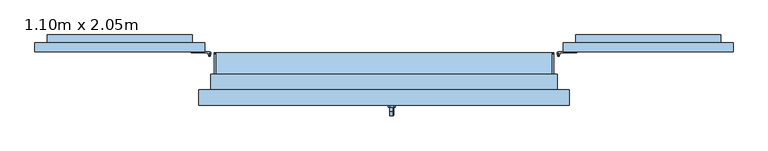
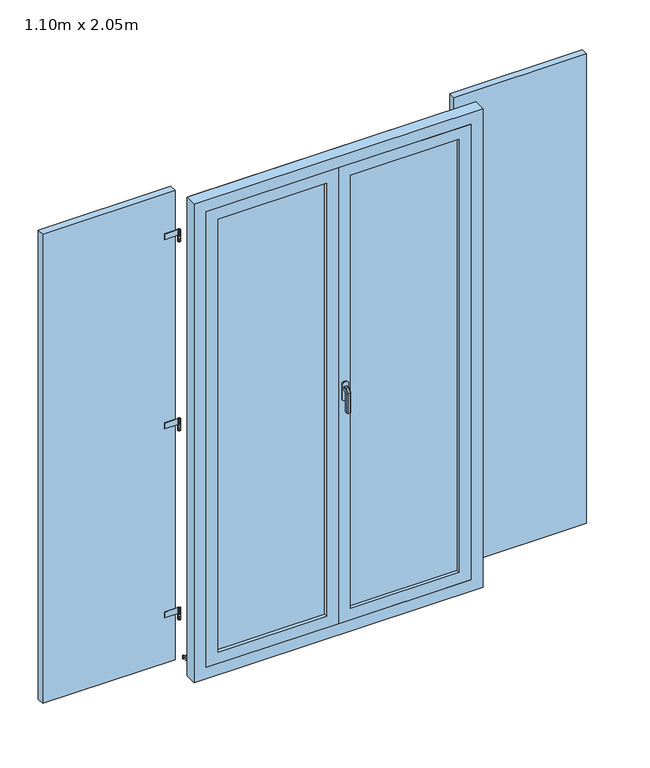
"""IFC4 building model written with IfcOpenShell, lengths in millimetres: window geometry, PF 2 Vantaux droits - Volets et petits bois : 1.10m x 2.05m."""

from ifc_helpers import new_model, si_unit, point, frame, frame_2d, origin, place, context, project, spatial, polyline, circle_curve, trimmed, segment, composite_curve, outline, extrude, faceted_brep, source, transform, mapped, element, save
from ifc_brep_helpers import plane_surface, cylinder_surface, advanced_brep


def window_1_10m_x_2_05m_0457a856(model_context):
    return source(origin(), model_context, "Body", "SolidModel", [
        extrude(outline(polyline([(-1130.0, 93.0), (-1130.0, 123.0), (-580.0, 123.0), (-580.0, 93.0), (-1130.0, 93.0)])), frame((0.0, 0.0, 25.0), z_axis=(0.0, 0.0, 1.0), x_axis=(1.0, 0.0, 0.0)), (0.0, 0.0, 1.0), 2060.0),
        advanced_brep(
        [(-560.0, 88.0, 225.0), (-570.0, 88.0, 225.0), (-560.0, 88.0, 200.0), (-570.0, 88.0, 200.0), (-567.0, 83.4174243, 205.0), (-567.0, 83.4174243, 215.0), (-563.0, 83.4174243, 215.0), (-563.0, 83.4174243, 205.0), (-563.0, 80.0, 215.0), (-567.0, 80.0, 215.0), (-567.0, 80.0, 205.0), (-563.0, 80.0, 205.0)],
        [
            (0, 1, circle_curve(frame((-565.0, 88.0, 225.0), z_axis=(0.0, 0.0, 1.0), x_axis=(-1.0, 0.0, 0.0)), 5.0)),
            (1, 0, circle_curve(frame((-565.0, 88.0, 225.0), z_axis=(0.0, 0.0, 1.0), x_axis=(-1.0, 0.0, 0.0)), 5.0)),
            (2, 3, circle_curve(frame((-565.0, 88.0, 200.0), z_axis=(0.0, 0.0, -1.0), x_axis=(-1.0, 0.0, 0.0)), 5.0)),
            (3, 2, circle_curve(frame((-565.0, 88.0, 200.0), z_axis=(0.0, 0.0, -1.0), x_axis=(-1.0, 0.0, 0.0)), 5.0)),
            (1, 3),
            (2, 0),
            (4, 5),
            (5, 6, circle_curve(frame((-565.0, 88.0, 215.0), z_axis=(0.0, 0.0, 1.0), x_axis=(-1.0, 0.0, 0.0)), 5.0)),
            (6, 7),
            (7, 4, circle_curve(frame((-565.0, 88.0, 205.0), z_axis=(0.0, 0.0, -1.0), x_axis=(-1.0, 0.0, 0.0)), 5.0)),
            (8, 6),
            (5, 9),
            (9, 8),
            (10, 4),
            (7, 11),
            (11, 10),
            (10, 9),
            (8, 11),
        ],
        [
            plane_surface(frame((-570.0, 88.0, 225.0), z_axis=(0.0, 0.0, 1.0), x_axis=(0.0, 1.0, 0.0))),
            plane_surface(frame((-570.0, 88.0, 200.0), z_axis=(0.0, 0.0, -1.0), x_axis=(0.0, -1.0, 0.0))),
            cylinder_surface(frame((-565.0, 88.0, 200.0), z_axis=(0.0, 0.0, 1.0), x_axis=(-1.0, 0.0, 0.0)), 5.0),
            plane_surface(frame((-567.0, 80.0, 215.0), z_axis=(0.0, 0.0, 1.0), x_axis=(0.0, 1.0, 0.0))),
            plane_surface(frame((-567.0, 80.0, 205.0), z_axis=(0.0, 0.0, -1.0), x_axis=(0.0, -1.0, 0.0))),
            plane_surface(frame((-567.0, 80.0, 215.0), z_axis=(-1.0, 0.0, 0.0), x_axis=(0.0, 0.0, -1.0))),
            plane_surface(frame((-563.0, 85.0, 215.0), z_axis=(1.0, 0.0, 0.0), x_axis=(0.0, 0.0, -1.0))),
            plane_surface(frame((-563.0, 80.0, 215.0), z_axis=(0.0, -1.0, 0.0), x_axis=(0.0, 0.0, -1.0))),
        ],
        [
            (0, [[1, 2]]),
            (1, [[3, 4]]),
            (2, [[5, -3, 6, -2], [7, 8, 9, 10]]),
            (2, [[-6, -4, -5, -1]]),
            (3, [[11, -8, 12, 13]]),
            (4, [[14, -10, 15, 16]]),
            (5, [[-12, -7, -14, 17]]),
            (6, [[-15, -9, -11, 18]]),
            (7, [[-17, -16, -18, -13]]),
        ],
    ),
        extrude(outline(composite_curve([segment(trimmed(circle_curve(frame_2d((-565.0, 88.0)), 5.0), [point((-565.0, 93.0))], [point((-570.0, 88.0))], False, "CARTESIAN"), True, "CONTINUOUS"), segment(polyline([(-570.0, 88.0), (-567.5, 88.0)]), True, "CONTINUOUS"), segment(trimmed(circle_curve(frame_2d((-565.0, 88.0)), 2.5), [point((-567.5, 88.0))], [point((-565.0, 90.5))], True, "CARTESIAN"), True, "CONTINUOUS"), segment(polyline([(-565.0, 90.5), (-624.3092325, 90.5), (-624.3092325, 93.0), (-565.0, 93.0)]), True, "CONTINUOUS")], self_intersect=False)), frame((0.0, 0.0, 225.0), z_axis=(0.0, 0.0, 1.0), x_axis=(1.0, 0.0, 0.0)), (0.0, 0.0, 1.0), 25.0),
        extrude(outline(composite_curve([segment(trimmed(circle_curve(frame_2d((-565.0, 88.0)), 2.5), [point((-562.5, 88.0))], [point((-567.5, 88.0))], False, "CARTESIAN"), True, "CONTINUOUS"), segment(trimmed(circle_curve(frame_2d((-565.0, 88.0)), 2.5), [point((-567.5, 88.0))], [point((-562.5, 88.0))], False, "CARTESIAN"), True, "CONTINUOUS")], self_intersect=False)), frame((0.0, 0.0, 225.0), z_axis=(0.0, 0.0, 1.0), x_axis=(1.0, 0.0, 0.0)), (0.0, 0.0, 1.0), 25.0),
        advanced_brep(
        [(-560.0, 88.0, 1885.0), (-570.0, 88.0, 1885.0), (-560.0, 88.0, 1860.0), (-570.0, 88.0, 1860.0), (-563.0, 83.4174243, 1875.0), (-563.0, 83.4174243, 1865.0), (-567.0, 83.4174243, 1865.0), (-567.0, 83.4174243, 1875.0), (-563.0, 80.0, 1875.0), (-567.0, 80.0, 1875.0), (-563.0, 80.0, 1865.0), (-567.0, 80.0, 1865.0)],
        [
            (0, 1, circle_curve(frame((-565.0, 88.0, 1885.0), z_axis=(0.0, 0.0, 1.0), x_axis=(-1.0, 0.0, 0.0)), 5.0)),
            (1, 0, circle_curve(frame((-565.0, 88.0, 1885.0), z_axis=(0.0, 0.0, 1.0), x_axis=(-1.0, 0.0, 0.0)), 5.0)),
            (2, 3, circle_curve(frame((-565.0, 88.0, 1860.0), z_axis=(0.0, 0.0, -1.0), x_axis=(-1.0, 0.0, 0.0)), 5.0)),
            (3, 2, circle_curve(frame((-565.0, 88.0, 1860.0), z_axis=(0.0, 0.0, -1.0), x_axis=(-1.0, 0.0, 0.0)), 5.0)),
            (1, 3),
            (2, 0),
            (4, 5),
            (5, 6, circle_curve(frame((-565.0, 88.0, 1865.0), z_axis=(0.0, 0.0, -1.0), x_axis=(-1.0, 0.0, 0.0)), 5.0)),
            (6, 7),
            (7, 4, circle_curve(frame((-565.0, 88.0, 1875.0), z_axis=(0.0, 0.0, 1.0), x_axis=(-1.0, 0.0, 0.0)), 5.0)),
            (8, 4),
            (7, 9),
            (9, 8),
            (10, 11),
            (11, 6),
            (5, 10),
            (9, 11),
            (10, 8),
        ],
        [
            plane_surface(frame((-570.0, 88.0, 1885.0), z_axis=(0.0, 0.0, 1.0), x_axis=(0.0, 1.0, 0.0))),
            plane_surface(frame((-570.0, 88.0, 1860.0), z_axis=(0.0, 0.0, -1.0), x_axis=(0.0, -1.0, 0.0))),
            cylinder_surface(frame((-565.0, 88.0, 1860.0), z_axis=(0.0, 0.0, 1.0), x_axis=(-1.0, 0.0, 0.0)), 5.0),
            plane_surface(frame((-563.0, 80.0, 1875.0), z_axis=(0.0, 0.0, 1.0), x_axis=(-1.0, 0.0, 0.0))),
            plane_surface(frame((-563.0, 80.0, 1865.0), z_axis=(0.0, 0.0, -1.0), x_axis=(1.0, 0.0, 0.0))),
            plane_surface(frame((-563.0, 80.0, 1875.0), z_axis=(0.0, -1.0, 0.0), x_axis=(0.0, 0.0, -1.0))),
            plane_surface(frame((-567.0, 80.0, 1875.0), z_axis=(-1.0, 0.0, 0.0), x_axis=(0.0, 0.0, -1.0))),
            plane_surface(frame((-563.0, 83.4174243, 1875.0), z_axis=(1.0, 0.0, 0.0), x_axis=(0.0, 0.0, -1.0))),
        ],
        [
            (0, [[1, 2]]),
            (1, [[3, 4]]),
            (2, [[5, -3, 6, -2], [7, 8, 9, 10]]),
            (2, [[-6, -4, -5, -1]]),
            (3, [[11, -10, 12, 13]]),
            (4, [[14, 15, -8, 16]]),
            (5, [[17, -14, 18, -13]]),
            (6, [[-9, -15, -17, -12]]),
            (7, [[-18, -16, -7, -11]]),
        ],
    ),
        extrude(outline(polyline([(-563.0, 80.0), (-567.0, 80.0), (-567.0, 83.4174243), (-563.0, 83.4174243), (-563.0, 80.0)])), frame((0.0, 0.0, 1035.0), z_axis=(0.0, 0.0, 1.0), x_axis=(1.0, 0.0, 0.0)), (0.0, 0.0, 1.0), 10.0),
        extrude(outline(composite_curve([segment(trimmed(circle_curve(frame_2d((-565.0, 88.0)), 5.0), [point((-565.0, 93.0))], [point((-570.0, 88.0))], False, "CARTESIAN"), True, "CONTINUOUS"), segment(polyline([(-570.0, 88.0), (-567.5, 88.0)]), True, "CONTINUOUS"), segment(trimmed(circle_curve(frame_2d((-565.0, 88.0)), 2.5), [point((-567.5, 88.0))], [point((-562.5, 88.0))], True, "CARTESIAN"), True, "CONTINUOUS"), segment(trimmed(circle_curve(frame_2d((-565.0, 88.0)), 2.5), [point((-562.5, 88.0))], [point((-565.0, 90.5))], True, "CARTESIAN"), True, "CONTINUOUS"), segment(polyline([(-565.0, 90.5), (-624.3092325, 90.5), (-624.3092325, 93.0), (-565.0, 93.0)]), True, "CONTINUOUS")], self_intersect=False)), frame((0.0, 0.0, 1055.0), z_axis=(0.0, 0.0, 1.0), x_axis=(1.0, 0.0, 0.0)), (0.0, 0.0, 1.0), 25.0),
        extrude(outline(composite_curve([segment(trimmed(circle_curve(frame_2d((-565.0, 88.0)), 2.5), [point((-562.5, 88.0))], [point((-567.5, 88.0))], False, "CARTESIAN"), True, "CONTINUOUS"), segment(trimmed(circle_curve(frame_2d((-565.0, 88.0)), 2.5), [point((-567.5, 88.0))], [point((-562.5, 88.0))], False, "CARTESIAN"), True, "CONTINUOUS")], self_intersect=False)), frame((0.0, 0.0, 1055.0), z_axis=(0.0, 0.0, 1.0), x_axis=(1.0, 0.0, 0.0)), (0.0, 0.0, 1.0), 25.0),
        extrude(outline(composite_curve([segment(trimmed(circle_curve(frame_2d((-565.0, 88.0)), 5.0), [point((-560.0, 88.0))], [point((-570.0, 88.0))], False, "CARTESIAN"), True, "CONTINUOUS"), segment(trimmed(circle_curve(frame_2d((-565.0, 88.0)), 5.0), [point((-570.0, 88.0))], [point((-560.0, 88.0))], False, "CARTESIAN"), True, "CONTINUOUS")], self_intersect=False)), frame((0.0, 0.0, 1030.0), z_axis=(0.0, 0.0, 1.0), x_axis=(1.0, 0.0, 0.0)), (0.0, 0.0, 1.0), 25.0),
        extrude(outline(composite_curve([segment(trimmed(circle_curve(frame_2d((-565.0, 88.0)), 5.0), [point((-565.0, 93.0))], [point((-570.0, 88.0))], False, "CARTESIAN"), True, "CONTINUOUS"), segment(polyline([(-570.0, 88.0), (-567.5, 88.0)]), True, "CONTINUOUS"), segment(trimmed(circle_curve(frame_2d((-565.0, 88.0)), 2.5), [point((-567.5, 88.0))], [point((-565.0, 90.5))], True, "CARTESIAN"), True, "CONTINUOUS"), segment(polyline([(-565.0, 90.5), (-624.3092325, 90.5), (-624.3092325, 93.0), (-565.0, 93.0)]), True, "CONTINUOUS")], self_intersect=False)), frame((0.0, 0.0, 1885.0), z_axis=(0.0, 0.0, 1.0), x_axis=(1.0, 0.0, 0.0)), (0.0, 0.0, 1.0), 25.0),
        extrude(outline(composite_curve([segment(trimmed(circle_curve(frame_2d((-565.0, 88.0)), 2.5), [point((-562.5, 88.0))], [point((-567.5, 88.0))], False, "CARTESIAN"), True, "CONTINUOUS"), segment(trimmed(circle_curve(frame_2d((-565.0, 88.0)), 2.5), [point((-567.5, 88.0))], [point((-562.5, 88.0))], False, "CARTESIAN"), True, "CONTINUOUS")], self_intersect=False)), frame((0.0, 0.0, 1885.0), z_axis=(0.0, 0.0, 1.0), x_axis=(1.0, 0.0, 0.0)), (0.0, 0.0, 1.0), 25.0),
        extrude(outline(polyline([(1845.0, -1000.3028914), (1845.0, -1090.0), (1095.0, -709.6971086), (1095.0, -620.0), (1845.0, -1000.3028914)])), frame((0.0, 123.0, 0.0), z_axis=(0.0, 1.0, 0.0), x_axis=(0.0, 0.0, 1.0)), (0.0, 0.0, 1.0), 25.0),
        extrude(outline(polyline([(265.0, -709.6978338), (265.0, -620.0007252), (1015.0, -1000.3036166), (1015.0, -1090.0007252), (265.0, -709.6978338)])), frame((0.0, 123.0, 0.0), z_axis=(0.0, 1.0, 0.0), x_axis=(0.0, 0.0, 1.0)), (0.0, 0.0, 1.0), 25.0),
        extrude(outline(polyline([(-620.0, 148.0), (-620.0, 123.0), (-1090.0, 123.0), (-1090.0, 148.0), (-620.0, 148.0)])), frame((0.0, 0.0, 1845.0), z_axis=(0.0, 0.0, 1.0), x_axis=(1.0, 0.0, 0.0)), (0.0, 0.0, 1.0), 80.0),
        extrude(outline(polyline([(-620.0, 148.0), (-620.0, 123.0), (-1090.0, 123.0), (-1090.0, 148.0), (-620.0, 148.0)])), frame((0.0, 0.0, 185.0), z_axis=(0.0, 0.0, 1.0), x_axis=(1.0, 0.0, 0.0)), (0.0, 0.0, 1.0), 80.0),
        extrude(outline(polyline([(-620.0, 148.0), (-620.0, 123.0), (-1090.0, 123.0), (-1090.0, 148.0), (-620.0, 148.0)])), frame((0.0, 0.0, 1015.0), z_axis=(0.0, 0.0, 1.0), x_axis=(1.0, 0.0, 0.0)), (0.0, 0.0, 1.0), 80.0),
        extrude(outline(polyline([(1130.0, 93.0), (580.0, 93.0), (580.0, 123.0), (1130.0, 123.0), (1130.0, 93.0)])), frame((0.0, 0.0, 25.0), z_axis=(0.0, 0.0, 1.0), x_axis=(1.0, 0.0, 0.0)), (0.0, 0.0, 1.0), 2060.0),
        advanced_brep(
        [(560.0, 88.0, 225.0), (570.0, 88.0, 225.0), (560.0, 88.0, 200.0), (570.0, 88.0, 200.0), (567.0, 83.4174243, 205.0), (563.0, 83.4174243, 205.0), (563.0, 83.4174243, 215.0), (567.0, 83.4174243, 215.0), (563.0, 80.0, 215.0), (567.0, 80.0, 215.0), (567.0, 80.0, 205.0), (563.0, 80.0, 205.0)],
        [
            (0, 1, circle_curve(frame((565.0, 88.0, 225.0), z_axis=(0.0, 0.0, 1.0), x_axis=(1.0, 0.0, 0.0)), 5.0)),
            (1, 0, circle_curve(frame((565.0, 88.0, 225.0), z_axis=(0.0, 0.0, 1.0), x_axis=(1.0, 0.0, 0.0)), 5.0)),
            (2, 3, circle_curve(frame((565.0, 88.0, 200.0), z_axis=(0.0, 0.0, -1.0), x_axis=(1.0, 0.0, 0.0)), 5.0)),
            (3, 2, circle_curve(frame((565.0, 88.0, 200.0), z_axis=(0.0, 0.0, -1.0), x_axis=(1.0, 0.0, 0.0)), 5.0)),
            (0, 2),
            (3, 1),
            (4, 5, circle_curve(frame((565.0, 88.0, 205.0), z_axis=(0.0, 0.0, -1.0), x_axis=(1.0, 0.0, 0.0)), 5.0)),
            (5, 6),
            (6, 7, circle_curve(frame((565.0, 88.0, 215.0), z_axis=(0.0, 0.0, 1.0), x_axis=(1.0, 0.0, 0.0)), 5.0)),
            (7, 4),
            (8, 9),
            (9, 7),
            (6, 8),
            (10, 11),
            (11, 5),
            (4, 10),
            (9, 10),
            (11, 8),
        ],
        [
            plane_surface(frame((570.0, 88.0, 225.0), z_axis=(0.0, 0.0, 1.0), x_axis=(0.0, 1.0, 0.0))),
            plane_surface(frame((570.0, 88.0, 200.0), z_axis=(0.0, 0.0, -1.0), x_axis=(0.0, -1.0, 0.0))),
            cylinder_surface(frame((565.0, 88.0, 200.0), z_axis=(0.0, 0.0, 1.0), x_axis=(1.0, 0.0, 0.0)), 5.0),
            plane_surface(frame((567.0, 80.0, 215.0), z_axis=(0.0, 0.0, 1.0), x_axis=(0.0, 1.0, 0.0))),
            plane_surface(frame((567.0, 80.0, 205.0), z_axis=(0.0, 0.0, -1.0), x_axis=(0.0, -1.0, 0.0))),
            plane_surface(frame((567.0, 80.0, 215.0), z_axis=(1.0, 0.0, 0.0), x_axis=(0.0, 0.0, -1.0))),
            plane_surface(frame((563.0, 85.0, 215.0), z_axis=(-1.0, 0.0, 0.0), x_axis=(0.0, 0.0, -1.0))),
            plane_surface(frame((563.0, 80.0, 215.0), z_axis=(0.0, -1.0, 0.0), x_axis=(0.0, 0.0, -1.0))),
        ],
        [
            (0, [[1, 2]]),
            (1, [[3, 4]]),
            (2, [[-1, 5, -4, 6], [7, 8, 9, 10]]),
            (2, [[-2, -6, -3, -5]]),
            (3, [[11, 12, -9, 13]]),
            (4, [[14, 15, -7, 16]]),
            (5, [[17, -16, -10, -12]]),
            (6, [[18, -13, -8, -15]]),
            (7, [[-11, -18, -14, -17]]),
        ],
    ),
        extrude(outline(composite_curve([segment(polyline([(565.0, 93.0), (624.3092325, 93.0), (624.3092325, 90.5), (565.0, 90.5)]), True, "CONTINUOUS"), segment(trimmed(circle_curve(frame_2d((565.0, 88.0)), 2.5), [point((565.0, 90.5))], [point((567.5, 88.0))], True, "CARTESIAN"), True, "CONTINUOUS"), segment(polyline([(567.5, 88.0), (570.0, 88.0)]), True, "CONTINUOUS"), segment(trimmed(circle_curve(frame_2d((565.0, 88.0)), 5.0), [point((570.0, 88.0))], [point((565.0, 93.0))], False, "CARTESIAN"), True, "CONTINUOUS")], self_intersect=False)), frame((0.0, 0.0, 225.0), z_axis=(0.0, 0.0, 1.0), x_axis=(1.0, 0.0, 0.0)), (0.0, 0.0, 1.0), 25.0),
        extrude(outline(composite_curve([segment(trimmed(circle_curve(frame_2d((565.0, 88.0)), 2.5), [point((562.5, 88.0))], [point((567.5, 88.0))], False, "CARTESIAN"), True, "CONTINUOUS"), segment(trimmed(circle_curve(frame_2d((565.0, 88.0)), 2.5), [point((567.5, 88.0))], [point((562.5, 88.0))], False, "CARTESIAN"), True, "CONTINUOUS")], self_intersect=False)), frame((0.0, 0.0, 225.0), z_axis=(0.0, 0.0, 1.0), x_axis=(1.0, 0.0, 0.0)), (0.0, 0.0, 1.0), 25.0),
        advanced_brep(
        [(560.0, 88.0, 1885.0), (570.0, 88.0, 1885.0), (560.0, 88.0, 1860.0), (570.0, 88.0, 1860.0), (563.0, 83.4174243, 1875.0), (567.0, 83.4174243, 1875.0), (567.0, 83.4174243, 1865.0), (563.0, 83.4174243, 1865.0), (563.0, 80.0, 1875.0), (567.0, 80.0, 1875.0), (563.0, 80.0, 1865.0), (567.0, 80.0, 1865.0)],
        [
            (0, 1, circle_curve(frame((565.0, 88.0, 1885.0), z_axis=(0.0, 0.0, 1.0), x_axis=(1.0, 0.0, 0.0)), 5.0)),
            (1, 0, circle_curve(frame((565.0, 88.0, 1885.0), z_axis=(0.0, 0.0, 1.0), x_axis=(1.0, 0.0, 0.0)), 5.0)),
            (2, 3, circle_curve(frame((565.0, 88.0, 1860.0), z_axis=(0.0, 0.0, -1.0), x_axis=(1.0, 0.0, 0.0)), 5.0)),
            (3, 2, circle_curve(frame((565.0, 88.0, 1860.0), z_axis=(0.0, 0.0, -1.0), x_axis=(1.0, 0.0, 0.0)), 5.0)),
            (0, 2),
            (3, 1),
            (4, 5, circle_curve(frame((565.0, 88.0, 1875.0), z_axis=(0.0, 0.0, 1.0), x_axis=(1.0, 0.0, 0.0)), 5.0)),
            (5, 6),
            (6, 7, circle_curve(frame((565.0, 88.0, 1865.0), z_axis=(0.0, 0.0, -1.0), x_axis=(1.0, 0.0, 0.0)), 5.0)),
            (7, 4),
            (8, 9),
            (9, 5),
            (4, 8),
            (10, 7),
            (6, 11),
            (11, 10),
            (8, 10),
            (11, 9),
        ],
        [
            plane_surface(frame((570.0, 88.0, 1885.0), z_axis=(0.0, 0.0, 1.0), x_axis=(0.0, 1.0, 0.0))),
            plane_surface(frame((570.0, 88.0, 1860.0), z_axis=(0.0, 0.0, -1.0), x_axis=(0.0, -1.0, 0.0))),
            cylinder_surface(frame((565.0, 88.0, 1860.0), z_axis=(0.0, 0.0, 1.0), x_axis=(1.0, 0.0, 0.0)), 5.0),
            plane_surface(frame((563.0, 80.0, 1875.0), z_axis=(0.0, 0.0, 1.0), x_axis=(1.0, 0.0, 0.0))),
            plane_surface(frame((563.0, 80.0, 1865.0), z_axis=(0.0, 0.0, -1.0), x_axis=(-1.0, 0.0, 0.0))),
            plane_surface(frame((563.0, 80.0, 1875.0), z_axis=(0.0, -1.0, 0.0), x_axis=(0.0, 0.0, -1.0))),
            plane_surface(frame((567.0, 80.0, 1875.0), z_axis=(1.0, 0.0, 0.0), x_axis=(0.0, 0.0, -1.0))),
            plane_surface(frame((563.0, 83.4174243, 1875.0), z_axis=(-1.0, 0.0, 0.0), x_axis=(0.0, 0.0, -1.0))),
        ],
        [
            (0, [[1, 2]]),
            (1, [[3, 4]]),
            (2, [[-1, 5, -4, 6], [7, 8, 9, 10]]),
            (2, [[-2, -6, -3, -5]]),
            (3, [[11, 12, -7, 13]]),
            (4, [[14, -9, 15, 16]]),
            (5, [[-11, 17, -16, 18]]),
            (6, [[-12, -18, -15, -8]]),
            (7, [[-13, -10, -14, -17]]),
        ],
    ),
        extrude(outline(polyline([(563.0, 80.0), (563.0, 83.4174243), (567.0, 83.4174243), (567.0, 80.0), (563.0, 80.0)])), frame((0.0, 0.0, 1035.0), z_axis=(0.0, 0.0, 1.0), x_axis=(1.0, 0.0, 0.0)), (0.0, 0.0, 1.0), 10.0),
        extrude(outline(composite_curve([segment(polyline([(565.0, 93.0), (624.3092325, 93.0), (624.3092325, 90.5), (565.0, 90.5)]), True, "CONTINUOUS"), segment(trimmed(circle_curve(frame_2d((565.0, 88.0)), 2.5), [point((565.0, 90.5))], [point((562.5, 88.0))], True, "CARTESIAN"), True, "CONTINUOUS"), segment(trimmed(circle_curve(frame_2d((565.0, 88.0)), 2.5), [point((562.5, 88.0))], [point((567.5, 88.0))], True, "CARTESIAN"), True, "CONTINUOUS"), segment(polyline([(567.5, 88.0), (570.0, 88.0)]), True, "CONTINUOUS"), segment(trimmed(circle_curve(frame_2d((565.0, 88.0)), 5.0), [point((570.0, 88.0))], [point((565.0, 93.0))], False, "CARTESIAN"), True, "CONTINUOUS")], self_intersect=False)), frame((0.0, 0.0, 1055.0), z_axis=(0.0, 0.0, 1.0), x_axis=(1.0, 0.0, 0.0)), (0.0, 0.0, 1.0), 25.0),
        extrude(outline(composite_curve([segment(trimmed(circle_curve(frame_2d((565.0, 88.0)), 2.5), [point((562.5, 88.0))], [point((567.5, 88.0))], False, "CARTESIAN"), True, "CONTINUOUS"), segment(trimmed(circle_curve(frame_2d((565.0, 88.0)), 2.5), [point((567.5, 88.0))], [point((562.5, 88.0))], False, "CARTESIAN"), True, "CONTINUOUS")], self_intersect=False)), frame((0.0, 0.0, 1055.0), z_axis=(0.0, 0.0, 1.0), x_axis=(1.0, 0.0, 0.0)), (0.0, 0.0, 1.0), 25.0),
        extrude(outline(composite_curve([segment(trimmed(circle_curve(frame_2d((565.0, 88.0)), 5.0), [point((560.0, 88.0))], [point((570.0, 88.0))], False, "CARTESIAN"), True, "CONTINUOUS"), segment(trimmed(circle_curve(frame_2d((565.0, 88.0)), 5.0), [point((570.0, 88.0))], [point((560.0, 88.0))], False, "CARTESIAN"), True, "CONTINUOUS")], self_intersect=False)), frame((0.0, 0.0, 1030.0), z_axis=(0.0, 0.0, 1.0), x_axis=(1.0, 0.0, 0.0)), (0.0, 0.0, 1.0), 25.0),
        extrude(outline(composite_curve([segment(polyline([(565.0, 93.0), (624.3092325, 93.0), (624.3092325, 90.5), (565.0, 90.5)]), True, "CONTINUOUS"), segment(trimmed(circle_curve(frame_2d((565.0, 88.0)), 2.5), [point((565.0, 90.5))], [point((567.5, 88.0))], True, "CARTESIAN"), True, "CONTINUOUS"), segment(polyline([(567.5, 88.0), (570.0, 88.0)]), True, "CONTINUOUS"), segment(trimmed(circle_curve(frame_2d((565.0, 88.0)), 5.0), [point((570.0, 88.0))], [point((565.0, 93.0))], False, "CARTESIAN"), True, "CONTINUOUS")], self_intersect=False)), frame((0.0, 0.0, 1885.0), z_axis=(0.0, 0.0, 1.0), x_axis=(1.0, 0.0, 0.0)), (0.0, 0.0, 1.0), 25.0),
        extrude(outline(composite_curve([segment(trimmed(circle_curve(frame_2d((565.0, 88.0)), 2.5), [point((562.5, 88.0))], [point((567.5, 88.0))], False, "CARTESIAN"), True, "CONTINUOUS"), segment(trimmed(circle_curve(frame_2d((565.0, 88.0)), 2.5), [point((567.5, 88.0))], [point((562.5, 88.0))], False, "CARTESIAN"), True, "CONTINUOUS")], self_intersect=False)), frame((0.0, 0.0, 1885.0), z_axis=(0.0, 0.0, 1.0), x_axis=(1.0, 0.0, 0.0)), (0.0, 0.0, 1.0), 25.0),
        extrude(outline(polyline([(1845.0, 1000.3028914), (1095.0, 620.0), (1095.0, 709.6971086), (1845.0, 1090.0), (1845.0, 1000.3028914)])), frame((0.0, 123.0, 0.0), z_axis=(0.0, 1.0, 0.0), x_axis=(0.0, 0.0, 1.0)), (0.0, 0.0, 1.0), 25.0),
        extrude(outline(polyline([(265.0, 709.6978338), (1015.0, 1090.0007252), (1015.0, 1000.3036166), (265.0, 620.0007252), (265.0, 709.6978338)])), frame((0.0, 123.0, 0.0), z_axis=(0.0, 1.0, 0.0), x_axis=(0.0, 0.0, 1.0)), (0.0, 0.0, 1.0), 25.0),
        extrude(outline(polyline([(620.0, 148.0), (1090.0, 148.0), (1090.0, 123.0), (620.0, 123.0), (620.0, 148.0)])), frame((0.0, 0.0, 1845.0), z_axis=(0.0, 0.0, 1.0), x_axis=(1.0, 0.0, 0.0)), (0.0, 0.0, 1.0), 80.0),
        extrude(outline(polyline([(620.0, 148.0), (1090.0, 148.0), (1090.0, 123.0), (620.0, 123.0), (620.0, 148.0)])), frame((0.0, 0.0, 185.0), z_axis=(0.0, 0.0, 1.0), x_axis=(1.0, 0.0, 0.0)), (0.0, 0.0, 1.0), 80.0),
        extrude(outline(polyline([(620.0, 148.0), (1090.0, 148.0), (1090.0, 123.0), (620.0, 123.0), (620.0, 148.0)])), frame((0.0, 0.0, 1015.0), z_axis=(0.0, 0.0, 1.0), x_axis=(1.0, 0.0, 0.0)), (0.0, 0.0, 1.0), 80.0),
        faceted_brep([(30.6460097, -86.0, 1122.0339292), (32.0339292, -86.0, 1120.6460097), (32.0339292, -86.0, 1109.3323012), (30.6676988, -86.0, 1107.9660708), (19.3323012, -86.0, 1107.9660708), (17.9660708, -86.0, 1109.3323012), (17.9660708, -86.0, 1120.6460097), (19.3539903, -86.0, 1122.0339292), (30.6460097, -98.9135489, 1122.0339292), (32.0339292, -98.3386538, 1120.6460097), (32.0339292, -111.6460097, 1107.3386538), (32.0339292, -111.6460097, 1020.0), (32.0339292, -100.3323012, 1020.0), (32.0339292, -100.3323012, 1102.6523623), (32.0339292, -93.6523623, 1109.3323012), (30.6676988, -93.0864511, 1107.9660708), (19.3323012, -93.0864511, 1107.9660708), (17.9660708, -93.6523623, 1109.3323012), (17.9660708, -100.3323012, 1102.6523623), (17.9660708, -100.3323012, 1020.0), (17.9660708, -111.6460097, 1020.0), (17.9660708, -111.6460097, 1107.3386538), (17.9660708, -98.3386538, 1120.6460097), (19.3539903, -98.9135489, 1122.0339292), (30.6460097, -113.0339292, 1107.9135489), (30.6676988, -98.9660708, 1102.0864511), (19.3323012, -98.9660708, 1102.0864511), (19.3539903, -113.0339292, 1107.9135489), (30.6460097, -113.0339292, 1020.0), (19.3539903, -113.0339292, 1020.0), (19.3323012, -98.9660708, 1020.0), (30.6676988, -98.9660708, 1020.0)], [[[0, 1, 2, 3, 4, 5, 6, 7]], [[1, 0, 8, 9]], [[2, 1, 9, 10, 11, 12, 13, 14]], [[3, 2, 14, 15]], [[4, 3, 15, 16]], [[5, 4, 16, 17]], [[6, 5, 17, 18, 19, 20, 21, 22]], [[7, 6, 22, 23]], [[0, 7, 23, 8]], [[9, 8, 24, 10]], [[15, 14, 13, 25]], [[16, 15, 25, 26]], [[17, 16, 26, 18]], [[23, 22, 21, 27]], [[8, 23, 27, 24]], [[28, 29, 20, 19, 30, 31, 12, 11]], [[10, 24, 28, 11]], [[25, 13, 12, 31]], [[26, 25, 31, 30]], [[18, 26, 30, 19]], [[27, 21, 20, 29]], [[24, 27, 29, 28]]]),
        extrude(outline(polyline([(1140.0, 32.0), (1140.0, 18.0), (1135.0, 13.0), (1065.0, 13.0), (1060.0, 18.0), (1060.0, 32.0), (1065.0, 37.0), (1135.0, 37.0), (1140.0, 32.0)])), frame((0.0, -86.0, 0.0), z_axis=(0.0, 1.0, 0.0), x_axis=(0.0, 0.0, 1.0)), (0.0, 0.0, 1.0), 6.0),
        extrude(outline(polyline([(90.0288776, 30.7927954), (90.0288776, 19.7145929), (85.0288776, 20.2401141), (85.0288776, 26.0631048), (0.0, 35.0), (0.0, 50.0), (5.0, 50.0), (5.0, 39.7296906), (90.0288776, 30.7927954)])), frame((-550.0, 0.0, 0.0), z_axis=(1.0, 0.0, 0.0), x_axis=(0.0, 1.0, 0.0)), (0.0, 0.0, 1.0), 1100.0),
        extrude(outline(composite_curve([segment(polyline([(90.0288776, 30.7927954), (5.0, 39.7296906), (5.0, 44.757232), (86.4469915, 36.1968082)]), True, "CONTINUOUS"), segment(trimmed(circle_curve(frame_2d((86.0288776, 32.2187207)), 4.0), [point((86.4469915, 36.1968082))], [point((90.0288776, 32.2187207))], False, "CARTESIAN"), True, "CONTINUOUS"), segment(polyline([(90.0288776, 32.2187207), (90.0288776, 30.7927954)]), True, "CONTINUOUS")], self_intersect=False)), frame((-550.0, 0.0, 0.0), z_axis=(1.0, 0.0, 0.0), x_axis=(0.0, 1.0, 0.0)), (0.0, 0.0, 1.0), 5.0),
        extrude(outline(composite_curve([segment(polyline([(90.0288776, 30.7927954), (5.0, 39.7296906), (5.0, 44.757232), (86.4469915, 36.1968082)]), True, "CONTINUOUS"), segment(trimmed(circle_curve(frame_2d((86.0288776, 32.2187207)), 4.0), [point((86.4469915, 36.1968082))], [point((90.0288776, 32.2187207))], False, "CARTESIAN"), True, "CONTINUOUS"), segment(polyline([(90.0288776, 32.2187207), (90.0288776, 30.7927954)]), True, "CONTINUOUS")], self_intersect=False)), frame((545.0, 0.0, 0.0), z_axis=(1.0, 0.0, 0.0), x_axis=(0.0, 1.0, 0.0)), (0.0, 0.0, 1.0), 5.0),
        extrude(outline(polyline([(85.0, 0.0), (2085.0, 0.0), (2085.0, -550.0), (85.0, -550.0), (85.0, 0.0)]), holes=[polyline([(135.0, -500.0), (2035.0, -500.0), (2035.0, -50.0), (135.0, -50.0), (135.0, -500.0)])]), frame((0.0, -80.0, 0.0), z_axis=(0.0, 1.0, 0.0), x_axis=(0.0, 0.0, 1.0)), (0.0, 0.0, 1.0), 40.0),
        extrude(outline(polyline([(50.0, -54.0), (500.0, -54.0), (500.0, -66.0), (50.0, -66.0), (50.0, -54.0)])), frame((0.0, 0.0, 135.0), z_axis=(0.0, 0.0, 1.0), x_axis=(1.0, 0.0, 0.0)), (0.0, 0.0, 1.0), 1900.0),
        extrude(outline(polyline([(-500.0, -54.0), (-50.0, -54.0), (-50.0, -66.0), (-500.0, -66.0), (-500.0, -54.0)])), frame((0.0, 0.0, 135.0), z_axis=(0.0, 0.0, 1.0), x_axis=(1.0, 0.0, 0.0)), (0.0, 0.0, 1.0), 1900.0),
        extrude(outline(polyline([(85.0, 550.0), (2085.0, 550.0), (2085.0, 0.0), (85.0, 0.0), (85.0, 550.0)]), holes=[polyline([(135.0, 50.0), (2035.0, 50.0), (2035.0, 500.0), (135.0, 500.0), (135.0, 50.0)])]), frame((0.0, -80.0, 0.0), z_axis=(0.0, 1.0, 0.0), x_axis=(0.0, 0.0, 1.0)), (0.0, 0.0, 1.0), 40.0),
        faceted_brep([(-600.0, -80.0, 35.0), (-600.0, -30.0, 35.0), (-550.0, -30.0, 35.0), (-550.0, 0.0, 35.0), (550.0, 0.0, 35.0), (550.0, -30.0, 35.0), (600.0, -30.0, 35.0), (600.0, -80.0, 35.0), (-600.0, -80.0, 2135.0), (-600.0, -30.0, 2135.0), (600.0, -30.0, 2135.0), (550.0, -30.0, 74.3761425), (-550.0, -30.0, 74.3761425), (-535.0, -30.0, 2070.0), (-535.0, -30.0, 100.0), (535.0, -30.0, 100.0), (535.0, -30.0, 2070.0), (-550.0, 20.0, 60.9786829), (-550.0, 20.0, 45.0), (-550.0, 10.0, 45.0), (-550.0, 10.0, 50.0), (-550.0, 0.0, 50.0), (550.0, 0.0, 50.0), (550.0, 10.0, 50.0), (550.0, 10.0, 45.0), (550.0, 20.0, 45.0), (550.0, 20.0, 60.9786829), (600.0, -80.0, 2135.0), (550.0, -80.0, 2085.0), (550.0, -80.0, 85.0), (-550.0, -80.0, 85.0), (-550.0, -80.0, 2085.0), (-535.0, -40.0, 2070.0), (-535.0, -40.0, 100.0), (535.0, -40.0, 100.0), (535.0, -40.0, 2070.0), (550.0, -40.0, 2085.0), (-550.0, -40.0, 2085.0), (-550.0, -40.0, 85.0), (550.0, -40.0, 85.0)], [[[0, 1, 2, 3, 4, 5, 6, 7]], [[1, 0, 8, 9]], [[1, 9, 10, 6, 5, 11, 12, 2], [13, 14, 15, 16]], [[12, 17, 18, 19, 20, 21, 3, 2]], [[3, 21, 22, 4]], [[4, 22, 23, 24, 25, 26, 11, 5]], [[6, 10, 27, 7]], [[0, 7, 27, 8], [28, 29, 30, 31]], [[13, 32, 33, 14]], [[33, 34, 15, 14]], [[35, 16, 15, 34]], [[17, 12, 11, 26]], [[36, 37, 38, 39], [32, 35, 34, 33]], [[38, 37, 31, 30]], [[30, 29, 39, 38]], [[28, 36, 39, 29]], [[18, 17, 26, 25]], [[19, 18, 25, 24]], [[20, 19, 24, 23]], [[21, 20, 23, 22]], [[13, 16, 35, 32]], [[37, 36, 28, 31]], [[10, 9, 8, 27]]]),
        extrude(outline(polyline([(35.0, -560.0), (35.0, -550.0), (2085.0, -550.0), (2085.0, 550.0), (35.0, 550.0), (35.0, 560.0), (2095.0, 560.0), (2095.0, -560.0), (35.0, -560.0)])), frame((0.0, -30.0, 0.0), z_axis=(0.0, 1.0, 0.0), x_axis=(0.0, 0.0, 1.0)), (0.0, 0.0, 1.0), 50.0),
        extrude(outline(polyline([(20.0, -32.0), (20.0, -40.0), (-20.0, -40.0), (-20.0, -32.0), (20.0, -32.0)])), frame((0.0, 0.0, 100.0), z_axis=(0.0, 0.0, 1.0), x_axis=(1.0, 0.0, 0.0)), (0.0, 0.0, 1.0), 1970.0),
    ])


if __name__ == "__main__":
    model = new_model("IFC4")
    model_context = context("Model", 3, world=origin())
    ifc_project = project(units=[si_unit("LENGTHUNIT", "METRE", prefix="MILLI")], contexts=[model_context])
    site = spatial("IfcSite", under=ifc_project)
    building = spatial("IfcBuilding", under=site)
    placement = place(None, origin())
    window_1_10m_x_2_05m_shape = window_1_10m_x_2_05m_0457a856(model_context)
    element("IfcWindow", 1, ObjectType="PF 2 Vantaux droits - Volets et petits bois : 1.10m x 2.05m", at=placement, inside=building, context=model_context, shape_type="MappedRepresentation", body=[
        mapped(window_1_10m_x_2_05m_shape, transform((0.0, 0.0, 0.0), x_axis=(1.0, 0.0, 0.0), y_axis=(0.0, 1.0, 0.0), z_axis=(0.0, 0.0, 1.0))),
    ])
    save(model, "model.ifc")
